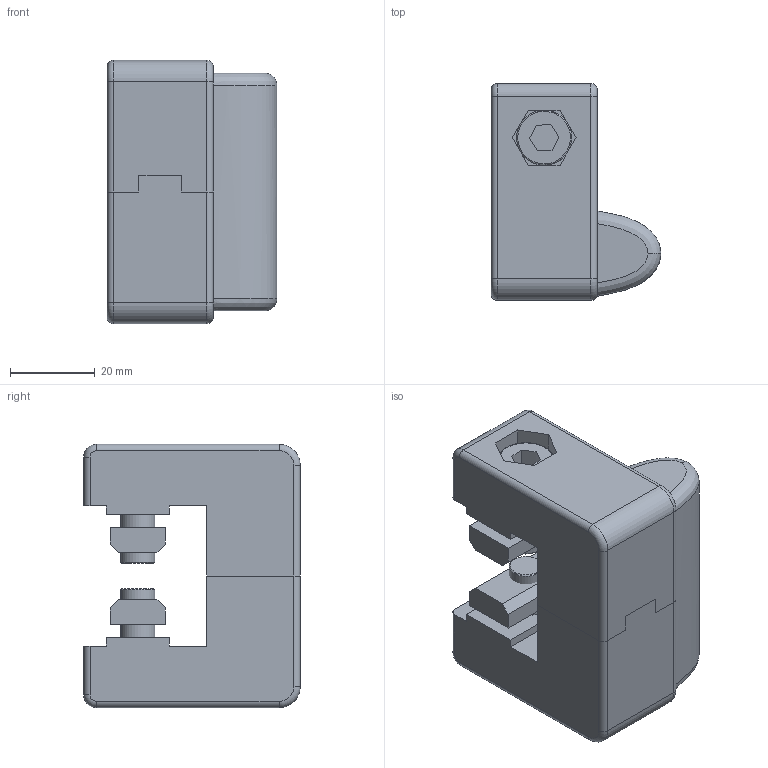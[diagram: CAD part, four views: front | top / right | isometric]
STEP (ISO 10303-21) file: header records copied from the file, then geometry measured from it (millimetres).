
FILE_DESCRIPTION (( 'STEP AP203' ), '1' );
FILE_NAME ('801.001.003.STEP', '2008-07-31T09:53:17', ( ' ' ), ( ' ' ), 'SwSTEP 2.0', 'SolidWorks 2007', '' );
FILE_SCHEMA (( 'CONFIG_CONTROL_DESIGN' ));
Length unit declared in the file: millimetre
Products named in the file (5): 801.001.003M+F; 084.301.000 VITI ALUSIC_084.301.003; 801.001.003T; 801.001.003; 084.302.000 DADI ALUSIC LUNGHI_084.302.011
Assembly tree (6 placements, depth 2):
  801.001.003
    084.302.000 DADI ALUSIC LUNGHI_084.302.011  x2
    084.301.000 VITI ALUSIC_084.301.003  x2
    801.001.003T
    801.001.003M+F
Bounding box: 40 x 51 x 62 mm (x, y, z)
Volume: 67081.4 mm3; surface area: 28598.4 mm2
Topology: 7 solids, 7 shells, 210 faces, 511 edges, 324 vertices
Faces by surface type: plane 124, cylinder 54, torus 22, bspline 6, cone 4
Entity records: 6668 total; most frequent: CARTESIAN_POINT 1752, DIRECTION 905, ORIENTED_EDGE 898, EDGE_CURVE 449, VECTOR 319, LINE 319, AXIS2_PLACEMENT_3D 293, VERTEX_POINT 284
